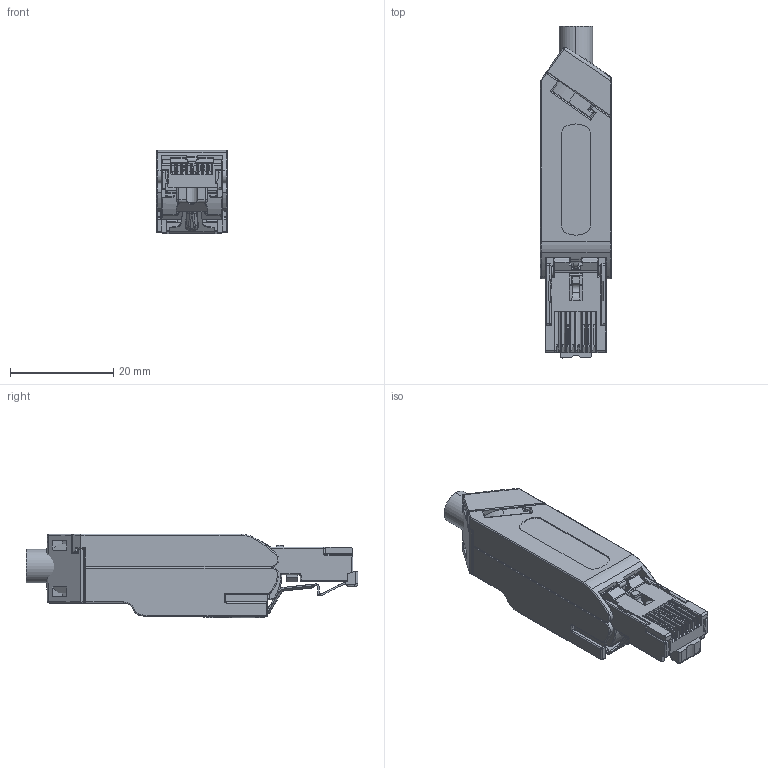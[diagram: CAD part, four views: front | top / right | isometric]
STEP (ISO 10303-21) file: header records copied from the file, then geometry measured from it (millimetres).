
FILE_DESCRIPTION(/* description */ (''),/* implementation_level */ '2;1');
FILE_NAME(/* name */ '901-BB30.stp',/* time_stamp */ '2023-02-22T09:30:09+08:00',/* author */ (''),/* organization */ (''),/* preprocessor_version */ 'ST-DEVELOPER v16.7',/* originating_system */ 'SIEMENS PLM Software NX 12.0',/* authorisation */ '');
FILE_SCHEMA (('AUTOMOTIVE_DESIGN { 1 0 10303 214 3 1 1 1 }'));
Products named in the file (1): 901-BB30
Bounding box: 13.75 x 64.19 x 16.15 mm (x, y, z)
Volume: 6543.4 mm3; surface area: 13440.9 mm2
Topology: 18 solids, 18 shells, 2643 faces, 7376 edges, 4630 vertices
Faces by surface type: plane 1588, cylinder 678, bspline 168, torus 93, sphere 60, cone 51, extrusion 5
Full cylindrical faces by diameter (mm): 1.8 x1
Entity records: 96634 total; most frequent: CARTESIAN_POINT 24613, ORIENTED_EDGE 14566, DIRECTION 13225, EDGE_CURVE 7283, VECTOR 5115, LINE 5110, VERTEX_POINT 4624, AXIS2_PLACEMENT_3D 4055
